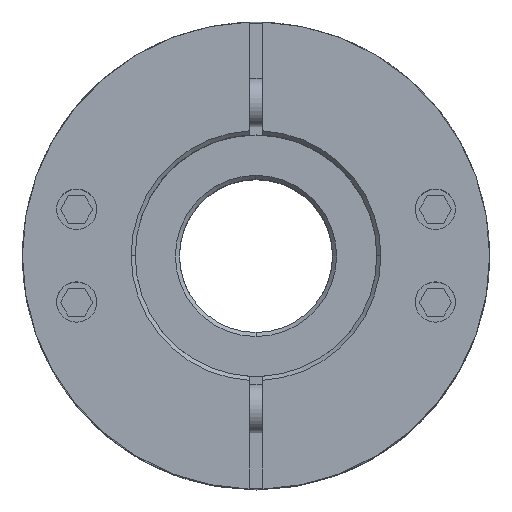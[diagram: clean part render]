
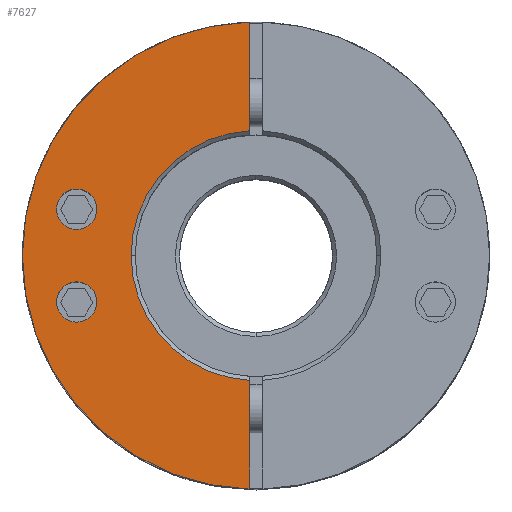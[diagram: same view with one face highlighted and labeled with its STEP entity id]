
A CAD part, top view. The second image highlights one B-rep face of the part: STEP entity #7627.
In plain terms, the highlighted planar face has unit normal (0, 0, 1).
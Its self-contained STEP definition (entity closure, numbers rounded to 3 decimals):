
#4241=CARTESIAN_POINT('',(-19.767,-5.759,27.125));
#4242=VERTEX_POINT('',#4241);
#4251=CARTESIAN_POINT('',(-24.767,-5.759,27.125));
#4252=VERTEX_POINT('',#4251);
#4253=CARTESIAN_POINT('',(-22.267,-5.759,27.125));
#4254=DIRECTION('',(0.0,0.0,-1.0));
#4255=DIRECTION('',(1.0,0.0,0.0));
#4256=AXIS2_PLACEMENT_3D('',#4253,#4254,#4255);
#4257=CIRCLE('',#4256,2.5);
#4258=EDGE_CURVE('',#4252,#4242,#4257,.T.);
#4367=CARTESIAN_POINT('',(-19.767,5.759,27.125));
#4368=VERTEX_POINT('',#4367);
#4377=CARTESIAN_POINT('',(-24.767,5.759,27.125));
#4378=VERTEX_POINT('',#4377);
#4379=CARTESIAN_POINT('',(-22.267,5.759,27.125));
#4380=DIRECTION('',(0.0,0.0,-1.0));
#4381=DIRECTION('',(1.0,0.0,0.0));
#4382=AXIS2_PLACEMENT_3D('',#4379,#4380,#4381);
#4383=CIRCLE('',#4382,2.5);
#4384=EDGE_CURVE('',#4378,#4368,#4383,.T.);
#4596=CARTESIAN_POINT('',(-29.0,0.,27.125));
#4597=VERTEX_POINT('',#4596);
#4604=CARTESIAN_POINT('',(-0.75,28.99,27.125));
#4605=VERTEX_POINT('',#4604);
#4606=CARTESIAN_POINT('',(0.0,0.0,27.125));
#4607=DIRECTION('',(0.0,0.0,-1.0));
#4608=DIRECTION('',(1.0,0.0,0.0));
#4609=AXIS2_PLACEMENT_3D('',#4606,#4607,#4608);
#4610=CIRCLE('',#4609,29.0);
#4611=EDGE_CURVE('',#4597,#4605,#4610,.T.);
#4958=CARTESIAN_POINT('',(-15.5,0.,27.125));
#4959=VERTEX_POINT('',#4958);
#4975=CARTESIAN_POINT('',(-0.75,15.482,27.125));
#4976=VERTEX_POINT('',#4975);
#4990=CARTESIAN_POINT('',(0.0,0.0,27.125));
#4991=DIRECTION('',(0.0,0.0,1.0));
#4992=DIRECTION('',(-1.0,0.0,0.0));
#4993=AXIS2_PLACEMENT_3D('',#4990,#4991,#4992);
#4994=CIRCLE('',#4993,15.5);
#4995=EDGE_CURVE('',#4976,#4959,#4994,.T.);
#7380=CARTESIAN_POINT('',(-0.75,-15.482,27.125));
#7381=VERTEX_POINT('',#7380);
#7382=CARTESIAN_POINT('',(0.0,0.0,27.125));
#7383=DIRECTION('',(0.0,0.0,1.0));
#7384=DIRECTION('',(-1.0,0.0,0.0));
#7385=AXIS2_PLACEMENT_3D('',#7382,#7383,#7384);
#7386=CIRCLE('',#7385,15.5);
#7387=EDGE_CURVE('',#4959,#7381,#7386,.T.);
#7420=CARTESIAN_POINT('',(-0.75,15.482,27.125));
#7421=DIRECTION('',(0.0,1.0,0.0));
#7422=VECTOR('',#7421,13.508);
#7423=LINE('',#7420,#7422);
#7424=EDGE_CURVE('',#4976,#4605,#7423,.T.);
#7534=CARTESIAN_POINT('',(-0.75,-28.99,27.125));
#7535=VERTEX_POINT('',#7534);
#7536=CARTESIAN_POINT('',(-0.75,-28.99,27.125));
#7537=DIRECTION('',(0.0,1.0,0.0));
#7538=VECTOR('',#7537,13.508);
#7539=LINE('',#7536,#7538);
#7540=EDGE_CURVE('',#7535,#7381,#7539,.T.);
#7588=CARTESIAN_POINT('',(2.636,0.,27.125));
#7589=DIRECTION('',(0.0,0.0,1.0));
#7590=DIRECTION('',(1.0,0.0,0.0));
#7591=AXIS2_PLACEMENT_3D('',#7588,#7589,#7590);
#7592=PLANE('',#7591);
#7593=ORIENTED_EDGE('',*,*,#4995,.F.);
#7594=ORIENTED_EDGE('',*,*,#7424,.T.);
#7595=ORIENTED_EDGE('',*,*,#4611,.F.);
#7596=CARTESIAN_POINT('',(0.0,0.0,27.125));
#7597=DIRECTION('',(0.0,0.0,-1.0));
#7598=DIRECTION('',(1.0,0.0,0.0));
#7599=AXIS2_PLACEMENT_3D('',#7596,#7597,#7598);
#7600=CIRCLE('',#7599,29.0);
#7601=EDGE_CURVE('',#7535,#4597,#7600,.T.);
#7602=ORIENTED_EDGE('',*,*,#7601,.F.);
#7603=ORIENTED_EDGE('',*,*,#7540,.T.);
#7604=ORIENTED_EDGE('',*,*,#7387,.F.);
#7605=EDGE_LOOP('',(#7593,#7594,#7595,#7602,#7603,#7604));
#7606=FACE_OUTER_BOUND('',#7605,.T.);
#7607=CARTESIAN_POINT('',(-22.267,-5.759,27.125));
#7608=DIRECTION('',(0.0,0.0,-1.0));
#7609=DIRECTION('',(1.0,0.0,0.0));
#7610=AXIS2_PLACEMENT_3D('',#7607,#7608,#7609);
#7611=CIRCLE('',#7610,2.5);
#7612=EDGE_CURVE('',#4242,#4252,#7611,.T.);
#7613=ORIENTED_EDGE('',*,*,#7612,.T.);
#7614=ORIENTED_EDGE('',*,*,#4258,.T.);
#7615=EDGE_LOOP('',(#7613,#7614));
#7616=FACE_BOUND('',#7615,.T.);
#7617=CARTESIAN_POINT('',(-22.267,5.759,27.125));
#7618=DIRECTION('',(0.0,0.0,-1.0));
#7619=DIRECTION('',(1.0,0.0,0.0));
#7620=AXIS2_PLACEMENT_3D('',#7617,#7618,#7619);
#7621=CIRCLE('',#7620,2.5);
#7622=EDGE_CURVE('',#4368,#4378,#7621,.T.);
#7623=ORIENTED_EDGE('',*,*,#7622,.T.);
#7624=ORIENTED_EDGE('',*,*,#4384,.T.);
#7625=EDGE_LOOP('',(#7623,#7624));
#7626=FACE_BOUND('',#7625,.T.);
#7627=ADVANCED_FACE('',(#7606,#7616,#7626),#7592,.T.);
